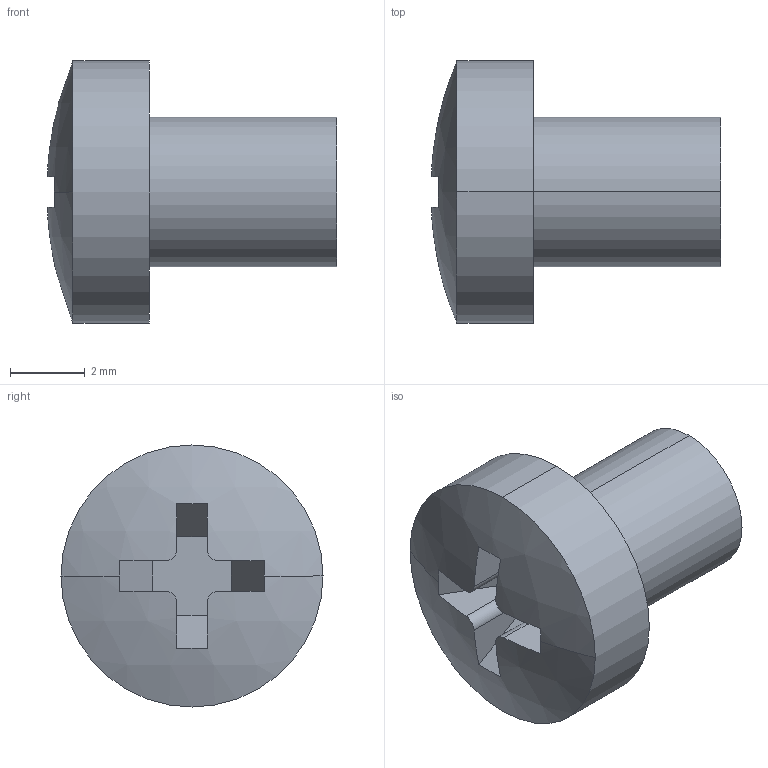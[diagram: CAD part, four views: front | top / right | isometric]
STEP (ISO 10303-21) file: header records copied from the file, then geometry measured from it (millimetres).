
FILE_DESCRIPTION(('Open CASCADE Model'),'2;1');
FILE_NAME('gb-small-pan-head-screw-m4-x-5.step','2026-11-14T14:31:50',( 'Author'),('Open CASCADE'),'Open CASCADE STEP processor 8.0', 'Open CASCADE 8.0','Unknown');
FILE_SCHEMA(('AP242_MANAGED_MODEL_BASED_3D_ENGINEERING_MIM_LF {1 0 10303 442 1 1 4 }' ));
Length unit declared in the file: millimetre
Products named in the file (1): GB Small Pan Head Screw M4 x 5
Bounding box: 7.72 x 7 x 7 mm (x, y, z)
Volume: 147.9 mm3; surface area: 202.7 mm2
Topology: 1 solids, 1 shells, 25 faces, 66 edges, 44 vertices
Faces by surface type: plane 15, cylinder 8, sphere 2
Entity records: 2208 total; most frequent: CARTESIAN_POINT 924, DIRECTION 236, ORIENTED_EDGE 132, PCURVE 132, DEFINITIONAL_REPRESENTATION 132, LINE 118, VECTOR 118, EDGE_CURVE 66
